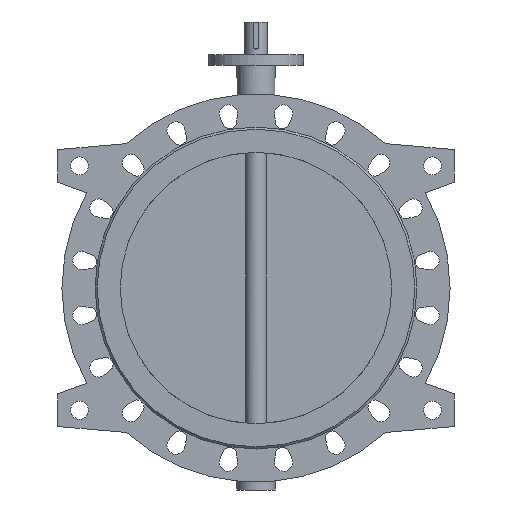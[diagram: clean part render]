
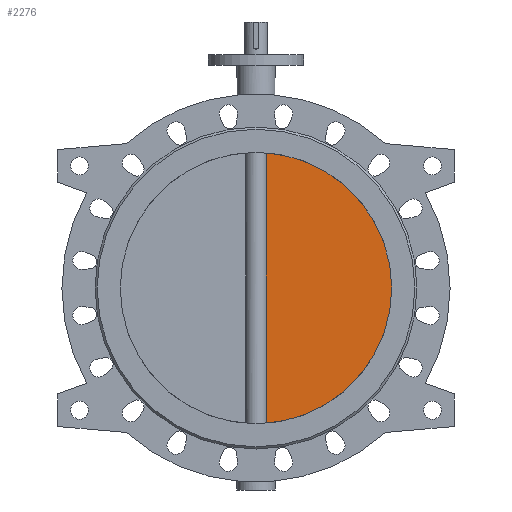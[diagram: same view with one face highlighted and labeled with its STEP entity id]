
A CAD part, front view. The second image highlights one B-rep face of the part: STEP entity #2276.
In plain terms, the highlighted planar face has unit normal (0, -1, 0).
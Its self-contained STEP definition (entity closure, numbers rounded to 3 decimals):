
#2276=ADVANCED_FACE('',(#4352),#4354,.T.);
#4352=FACE_BOUND('',#4353,.T.);
#4353=EDGE_LOOP('',(#5809,#5810));
#4354=PLANE('',#4355);
#4355=AXIS2_PLACEMENT_3D('',#4356,#4357,#4358);
#4356=CARTESIAN_POINT('',(0.,-7.5,0.));
#4357=DIRECTION('',(0.,-1.,0.));
#4358=DIRECTION('',(1.,0.,0.));
#5809=ORIENTED_EDGE('',*,*,#6538,.T.);
#5810=ORIENTED_EDGE('',*,*,#6544,.T.);
#6538=EDGE_CURVE('',#7727,#7728,#7729,.F.);
#6544=EDGE_CURVE('',#7728,#7727,#7739,.T.);
#7727=VERTEX_POINT('',#11096);
#7728=VERTEX_POINT('',#11097);
#7729=CIRCLE('',#11098,250.);
#7739=LINE('',#11352,#11353);
#11096=CARTESIAN_POINT('',(18.54,-7.5,-249.312));
#11097=CARTESIAN_POINT('',(18.54,-7.5,249.312));
#11098=AXIS2_PLACEMENT_3D('',#11099,#11100,#11101);
#11099=CARTESIAN_POINT('',(0.,-7.5,0.));
#11100=DIRECTION('',(0.,1.,0.));
#11101=DIRECTION('',(0.074,0.,0.997));
#11352=CARTESIAN_POINT('',(18.54,-7.5,249.312));
#11353=VECTOR('',#11354,1.);
#11354=DIRECTION('',(0.,0.,-1.));
